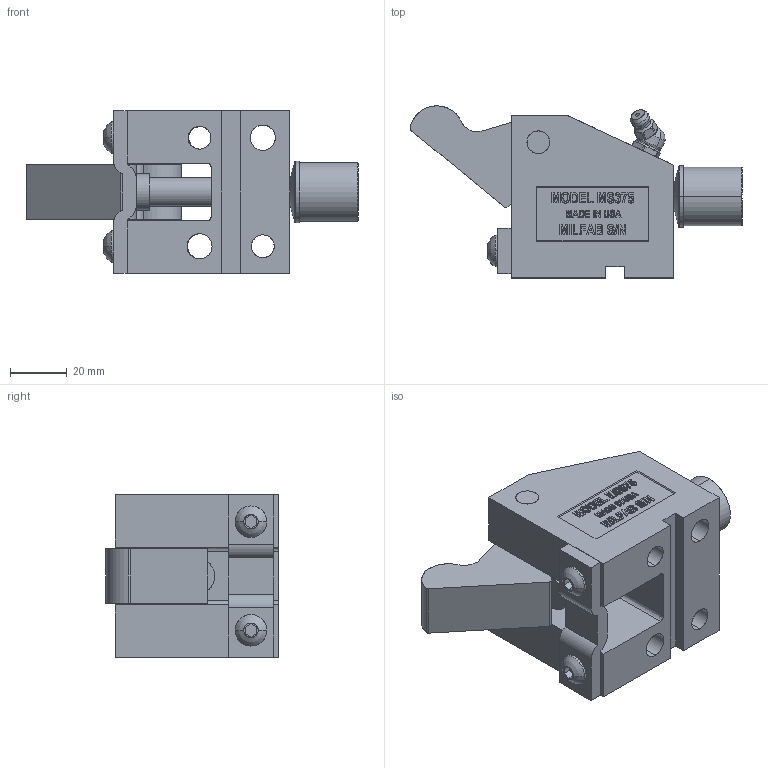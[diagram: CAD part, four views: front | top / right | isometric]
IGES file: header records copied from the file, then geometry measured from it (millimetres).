
Start section: SolidWorks IGES file using analytic representation for surfaces
Global section: file name: Y:\3\MS37545\OPEN\MS37545-O.IGS; native system: SolidWorks 2006 by SolidWorks Corporation; preprocessor: SolidWorks 2006 by SolidWorks Corporation; author: Jim; date: 090126.145314; units: inch
Bounding box: 116.56 x 60.44 x 57.15 mm (x, y, z)
Surface area: 45128.8 mm2 (no closed solid volume)
Topology: 0 solids, 0 shells, 591 faces, 7314 edges, 7312 vertices
Faces by surface type: bspline 463, revolution 128
